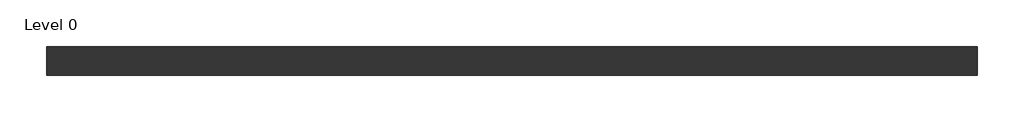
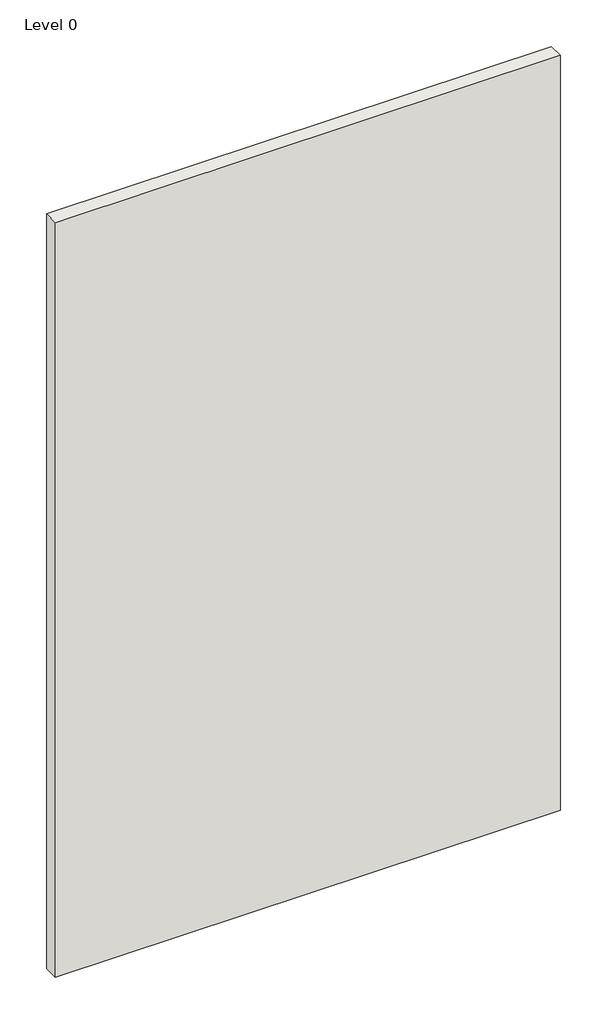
# One storey: 1 wall.
"""IFC4 building model written with IfcOpenShell, lengths in millimetres."""

from ifc_helpers import new_model, si_unit, origin, origin_with_axes, place, context, project, spatial, polyline, outline, extrude, element, save

model = new_model("IFC4")

# Units and contexts
model_context = context("Model", 3, world=origin())
ifc_project = project(units=[si_unit("LENGTHUNIT", "METRE", prefix="MILLI")], contexts=[model_context])

# Site, building, storey
site = spatial("IfcSite", under=ifc_project)
building = spatial("IfcBuilding", under=site)
storey = spatial("IfcBuildingStorey", under=building, Name="Level 0", Elevation=0.0)

# Wall
placement = place(None, origin())
element("IfcWall", 1, ObjectType="X606009 - GypWall Extreme", at=placement, inside=storey, context=model_context, shape_type="SweptSolid", body=[
    extrude(outline(polyline([(1155.997948, 507.7669953), (-1944.002052, 507.7669953), (-1944.002052, 602.7669953), (1155.997948, 602.7669953), (1155.997948, 507.7669953)])), origin_with_axes(), (0.0, 0.0, 1.0), 4900.0),
])

save(model, "model.ifc")
